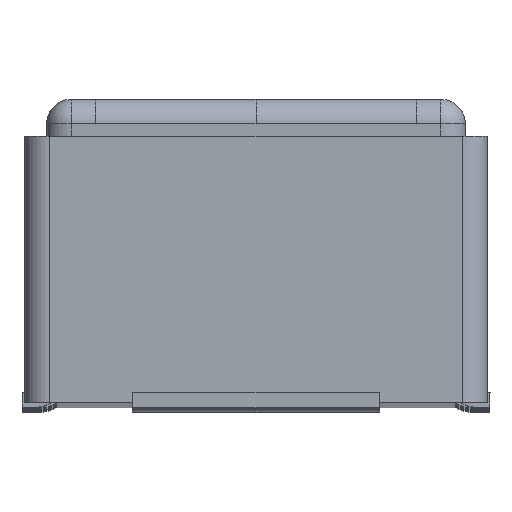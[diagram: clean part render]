
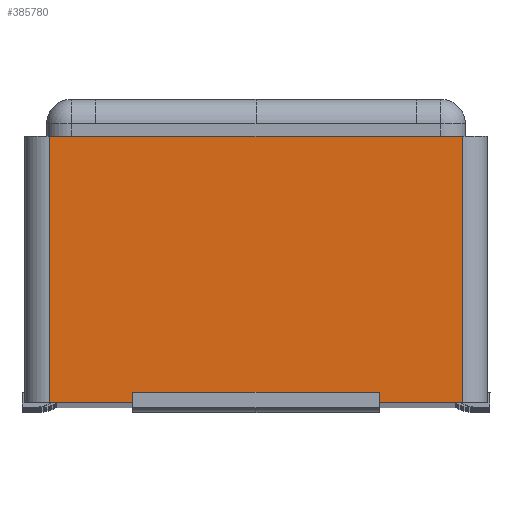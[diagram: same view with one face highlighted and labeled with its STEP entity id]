
A CAD part, top view. The second image highlights one B-rep face of the part: STEP entity #385780.
In plain terms, the highlighted planar face has unit normal (0, 0, 1).
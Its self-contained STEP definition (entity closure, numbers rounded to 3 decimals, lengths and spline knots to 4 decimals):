
#40630=CARTESIAN_POINT('',(-104.1177,-0.615,
13.0495));
#40640=VERTEX_POINT('',#40630);
#40690=CARTESIAN_POINT('',(-103.2777,-0.615,
13.0495));
#40700=DIRECTION('',(-1.,0.,0.));
#40710=VECTOR('',#40700,1.);
#40720=LINE('',#40690,#40710);
#40730=CARTESIAN_POINT('',(-103.2777,-0.615,
13.0495));
#40740=VERTEX_POINT('',#40730);
#40750=EDGE_CURVE('',#40740,#40640,#40720,.T.);
#40770=CARTESIAN_POINT('',(-103.2777,-0.615,
13.0495));
#40780=DIRECTION('',(1.,0.,0.));
#40790=VECTOR('',#40780,1.);
#40800=LINE('',#40770,#40790);
#40810=CARTESIAN_POINT('',(-102.4377,-0.615,
13.0495));
#40820=VERTEX_POINT('',#40810);
#40830=EDGE_CURVE('',#40740,#40820,#40800,.T.);
#384880=CARTESIAN_POINT('',(-102.4377,0.465,
13.0495));
#384890=DIRECTION('',(0.,-1.,0.));
#384900=VECTOR('',#384890,1.);
#384910=LINE('',#384880,#384900);
#384920=CARTESIAN_POINT('',(-102.4377,0.465,
13.0495));
#384930=VERTEX_POINT('',#384920);
#384940=EDGE_CURVE('',#384930,#40820,#384910,.T.);
#385140=CARTESIAN_POINT('',(-103.2777,0.485,
13.0495));
#385150=DIRECTION('',(0.,0.,-1.));
#385160=DIRECTION('',(0.,1.,0.));
#385170=AXIS2_PLACEMENT_3D('',#385140,#385150,#385160);
#385180=PLANE('',#385170);
#385190=ORIENTED_EDGE('',*,*,#40830,.T.);
#385200=ORIENTED_EDGE('',*,*,#40750,.F.);
#385210=CARTESIAN_POINT('',(-104.1177,-0.615,
13.0495));
#385220=DIRECTION('',(0.,1.,0.));
#385230=VECTOR('',#385220,1.);
#385240=LINE('',#385210,#385230);
#385250=CARTESIAN_POINT('',(-104.1177,0.465,
13.0495));
#385260=VERTEX_POINT('',#385250);
#385270=EDGE_CURVE('',#40640,#385260,#385240,.T.);
#385280=ORIENTED_EDGE('',*,*,#385270,.F.);
#385290=CARTESIAN_POINT('',(-103.7777,0.465,
13.0495));
#385300=DIRECTION('',(-1.,0.,0.));
#385310=VECTOR('',#385300,1.);
#385320=LINE('',#385290,#385310);
#385330=CARTESIAN_POINT('',(-103.7777,0.465,
13.0495));
#385340=VERTEX_POINT('',#385330);
#385350=EDGE_CURVE('',#385340,#385260,#385320,.T.);
#385360=ORIENTED_EDGE('',*,*,#385350,.T.);
#385370=CARTESIAN_POINT('',(-103.7777,0.425,
13.0495));
#385380=DIRECTION('',(0.,1.,0.));
#385390=VECTOR('',#385380,1.);
#385400=LINE('',#385370,#385390);
#385410=CARTESIAN_POINT('',(-103.7777,0.425,
13.0495));
#385420=VERTEX_POINT('',#385410);
#385430=EDGE_CURVE('',#385420,#385340,#385400,.T.);
#385440=ORIENTED_EDGE('',*,*,#385430,.T.);
#385450=CARTESIAN_POINT('',(-103.7777,0.425,
13.0495));
#385460=DIRECTION('',(1.,0.,0.));
#385470=VECTOR('',#385460,1.);
#385480=LINE('',#385450,#385470);
#385490=CARTESIAN_POINT('',(-103.2777,0.425,
13.0495));
#385500=VERTEX_POINT('',#385490);
#385510=EDGE_CURVE('',#385420,#385500,#385480,.T.);
#385520=ORIENTED_EDGE('',*,*,#385510,.F.);
#385530=CARTESIAN_POINT('',(-102.7777,0.425,
13.0495));
#385540=DIRECTION('',(-1.,0.,0.));
#385550=VECTOR('',#385540,1.);
#385560=LINE('',#385530,#385550);
#385570=CARTESIAN_POINT('',(-102.7777,0.425,
13.0495));
#385580=VERTEX_POINT('',#385570);
#385590=EDGE_CURVE('',#385580,#385500,#385560,.T.);
#385600=ORIENTED_EDGE('',*,*,#385590,.T.);
#385610=CARTESIAN_POINT('',(-102.7777,0.425,
13.0495));
#385620=DIRECTION('',(0.,1.,0.));
#385630=VECTOR('',#385620,1.);
#385640=LINE('',#385610,#385630);
#385650=CARTESIAN_POINT('',(-102.7777,0.465,
13.0495));
#385660=VERTEX_POINT('',#385650);
#385670=EDGE_CURVE('',#385580,#385660,#385640,.T.);
#385680=ORIENTED_EDGE('',*,*,#385670,.F.);
#385690=CARTESIAN_POINT('',(-102.7777,0.465,
13.0495));
#385700=DIRECTION('',(1.,0.,0.));
#385710=VECTOR('',#385700,1.);
#385720=LINE('',#385690,#385710);
#385730=EDGE_CURVE('',#385660,#384930,#385720,.T.);
#385740=ORIENTED_EDGE('',*,*,#385730,.F.);
#385750=ORIENTED_EDGE('',*,*,#384940,.F.);
#385760=EDGE_LOOP('',(#385750,#385740,#385680,#385600,#385520,#385440,
#385360,#385280,#385200,#385190));
#385770=FACE_OUTER_BOUND('',#385760,.T.);
#385780=ADVANCED_FACE('',(#385770),#385180,.F.);
